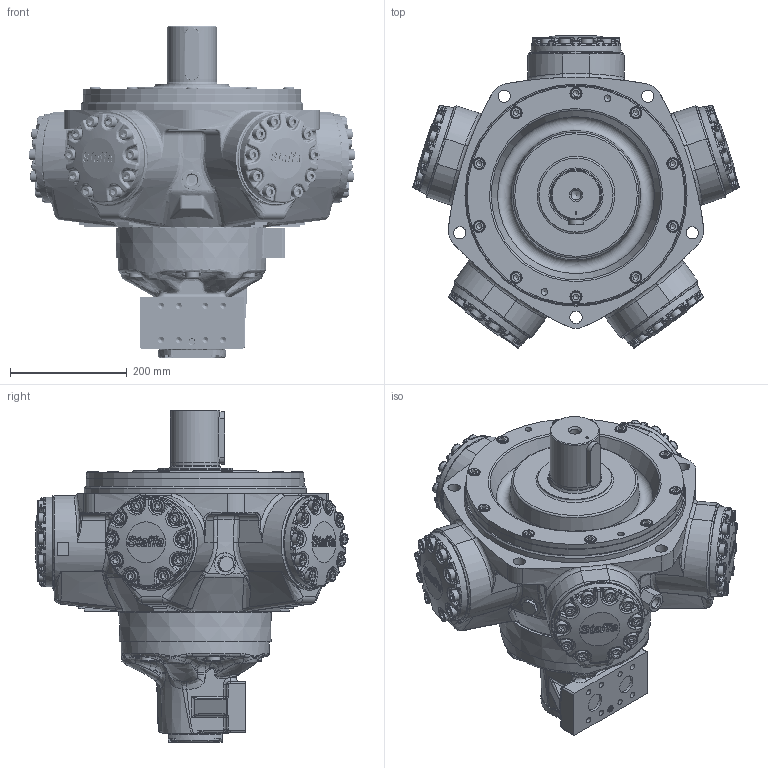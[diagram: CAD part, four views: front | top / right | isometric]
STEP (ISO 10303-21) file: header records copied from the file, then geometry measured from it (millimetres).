
FILE_DESCRIPTION(/* description */ (''),/* implementation_level */ '2;1');
FILE_NAME(/* name */ 'HMC125_P1_SFM3_X_P00A00.stp',/* time_stamp */ '2025-04-22T10:58:37+01:00',/* author */ ('ccallanga'),/* organization */ (''),/* preprocessor_version */ 'ST-DEVELOPER v20',/* originating_system */ 'Autodesk Inventor 2024',/* authorisation */ '');
FILE_SCHEMA (('AUTOMOTIVE_DESIGN { 1 0 10303 214 3 1 1 }'));
Products named in the file (1): 017750 HMC125 WEBSITE ASSEMBLY_Simplify_1
Bounding box: 560.12 x 535.2 x 569.37 mm (x, y, z)
Volume: 41334874.1 mm3; surface area: 1112731.5 mm2
Topology: 1 solids, 1 shells, 4748 faces, 11515 edges, 6789 vertices
Faces by surface type: bspline 1872, plane 1254, cylinder 940, torus 400, cone 157, sphere 125
Full cylindrical faces by diameter (mm): 2.2 x4, 6.5 x1, 7 x1, 9.4 x1, 10.25 x8, 11.113 x1, 11.328 x4, 11.445 x2, 11.913 x4, 12 x1, 12.7 x4, 17.323 x1, 18.644 x1, 19.05 x60, 20.637 x60, 21 x5, 23.825 x5, 25.4 x5, 26.92 x2, 30.48 x1, 32 x2, 38.1 x3, 68.58 x1, 85.001 x1, 88.837 x1, 92.964 x1, 127 x1, 158.75 x5, 254 x2, 373.255 x1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
Entity records: 217845 total; most frequent: CARTESIAN_POINT 116570, ORIENTED_EDGE 22540, DIRECTION 15908, EDGE_CURVE 11270, VERTEX_POINT 6789, AXIS2_PLACEMENT_3D 6238, EDGE_LOOP 5027, STYLED_ITEM 4749
